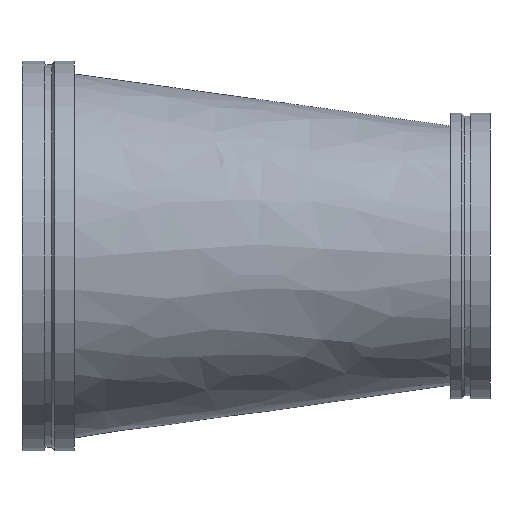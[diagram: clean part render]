
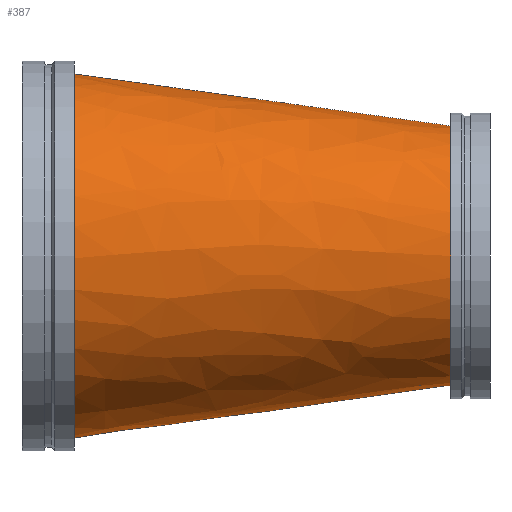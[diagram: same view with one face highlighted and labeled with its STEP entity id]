
A CAD part, front view. The second image highlights one B-rep face of the part: STEP entity #387.
In plain terms, the highlighted free-form (B-spline) face has degree [1, 2] with [2, 9] control points.
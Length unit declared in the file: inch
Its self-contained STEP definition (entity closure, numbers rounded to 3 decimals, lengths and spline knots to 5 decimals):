
#46=B_SPLINE_CURVE_WITH_KNOTS('',1,(#747,#748),.UNSPECIFIED.,.F.,.F.,(2,
2),(-2.11189,-0.00248),.UNSPECIFIED.);
#48=(
BOUNDED_SURFACE()
B_SPLINE_SURFACE(1,2,((#729,#730,#731,#732,#733,#734,#735,#736,#737),(#738,
#739,#740,#741,#742,#743,#744,#745,#746)),.UNSPECIFIED.,.F.,.T.,.F.)
B_SPLINE_SURFACE_WITH_KNOTS((2,2),(3,2,2,2,3),(-0.1354,2.20683),
(-3.14159,-1.5708,0.,1.5708,3.14159),
 .UNSPECIFIED.)
GEOMETRIC_REPRESENTATION_ITEM()
RATIONAL_B_SPLINE_SURFACE(((1.,0.707,1.,0.707,1.,
0.707,1.,0.707,1.),(1.,0.707,1.,0.707,
1.,0.707,1.,0.707,1.)))
REPRESENTATION_ITEM('')
SURFACE()
);
#98=FACE_OUTER_BOUND('',#120,.T.);
#120=EDGE_LOOP('',(#321,#322,#323,#324,#325,#326));
#129=CIRCLE('',#415,10.);
#130=CIRCLE('',#416,10.);
#153=CIRCLE('',#450,14.);
#154=CIRCLE('',#451,14.);
#166=VERTEX_POINT('',#628);
#167=VERTEX_POINT('',#629);
#190=VERTEX_POINT('',#695);
#191=VERTEX_POINT('',#696);
#203=EDGE_CURVE('',#166,#167,#129,.T.);
#204=EDGE_CURVE('',#167,#166,#130,.T.);
#235=EDGE_CURVE('',#190,#191,#153,.T.);
#236=EDGE_CURVE('',#191,#190,#154,.T.);
#243=EDGE_CURVE('',#167,#191,#46,.T.);
#321=ORIENTED_EDGE('',*,*,#203,.T.);
#322=ORIENTED_EDGE('',*,*,#243,.T.);
#323=ORIENTED_EDGE('',*,*,#236,.T.);
#324=ORIENTED_EDGE('',*,*,#235,.T.);
#325=ORIENTED_EDGE('',*,*,#243,.F.);
#326=ORIENTED_EDGE('',*,*,#204,.T.);
#387=ADVANCED_FACE('',(#98),#48,.F.);
#415=AXIS2_PLACEMENT_3D('',#630,#486,#487);
#416=AXIS2_PLACEMENT_3D('',#631,#488,#489);
#450=AXIS2_PLACEMENT_3D('',#697,#564,#565);
#451=AXIS2_PLACEMENT_3D('',#698,#566,#567);
#486=DIRECTION('center_axis',(-1.,0.,0.));
#487=DIRECTION('ref_axis',(0.,-1.,0.));
#488=DIRECTION('center_axis',(-1.,0.,0.));
#489=DIRECTION('ref_axis',(0.,-1.,0.));
#564=DIRECTION('center_axis',(1.,0.,0.));
#565=DIRECTION('ref_axis',(0.,1.,0.));
#566=DIRECTION('center_axis',(1.,0.,0.));
#567=DIRECTION('ref_axis',(0.,1.,0.));
#628=CARTESIAN_POINT('',(33.,-14.,0.));
#629=CARTESIAN_POINT('',(33.,-4.18334,9.99832));
#630=CARTESIAN_POINT('Origin',(33.,-4.,0.));
#631=CARTESIAN_POINT('Origin',(33.,-4.,0.));
#695=CARTESIAN_POINT('',(4.,14.,0.));
#696=CARTESIAN_POINT('',(4.,-0.25667,13.99765));
#697=CARTESIAN_POINT('Origin',(4.,0.,0.));
#698=CARTESIAN_POINT('Origin',(4.,0.,0.));
#729=CARTESIAN_POINT('Ctrl Pts',(2.10437,0.,
14.25907));
#730=CARTESIAN_POINT('Ctrl Pts',(0.20874,-14.,14.25907));
#731=CARTESIAN_POINT('Ctrl Pts',(0.20874,-14.,0.));
#732=CARTESIAN_POINT('Ctrl Pts',(0.20874,-14.,-14.25907));
#733=CARTESIAN_POINT('Ctrl Pts',(2.10437,0.,
-14.25907));
#734=CARTESIAN_POINT('Ctrl Pts',(4.,14.,-14.25907));
#735=CARTESIAN_POINT('Ctrl Pts',(4.,14.,0.));
#736=CARTESIAN_POINT('Ctrl Pts',(4.,14.,14.25907));
#737=CARTESIAN_POINT('Ctrl Pts',(2.10437,0.,
14.25907));
#738=CARTESIAN_POINT('Ctrl Pts',(34.30527,-4.36007,9.81831));
#739=CARTESIAN_POINT('Ctrl Pts',(33.,-14.,9.81831));
#740=CARTESIAN_POINT('Ctrl Pts',(33.,-14.,0.));
#741=CARTESIAN_POINT('Ctrl Pts',(33.,-14.,-9.81831));
#742=CARTESIAN_POINT('Ctrl Pts',(34.30527,-4.36007,-9.81831));
#743=CARTESIAN_POINT('Ctrl Pts',(35.61054,5.27985,-9.81831));
#744=CARTESIAN_POINT('Ctrl Pts',(35.61054,5.27985,0.));
#745=CARTESIAN_POINT('Ctrl Pts',(35.61054,5.27985,9.81831));
#746=CARTESIAN_POINT('Ctrl Pts',(34.30527,-4.36007,9.81831));
#747=CARTESIAN_POINT('Ctrl Pts',(33.,-4.18334,9.99832));
#748=CARTESIAN_POINT('Ctrl Pts',(4.,-0.25667,13.99765));
